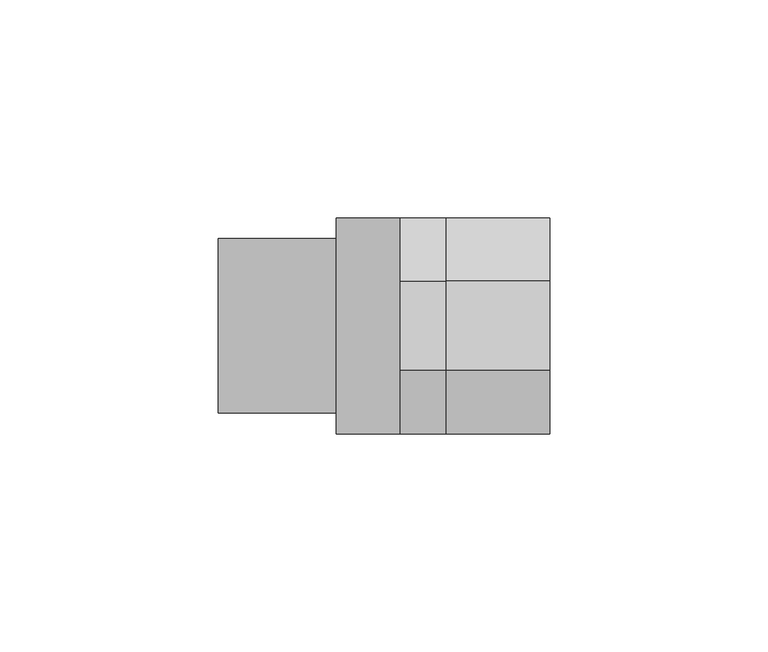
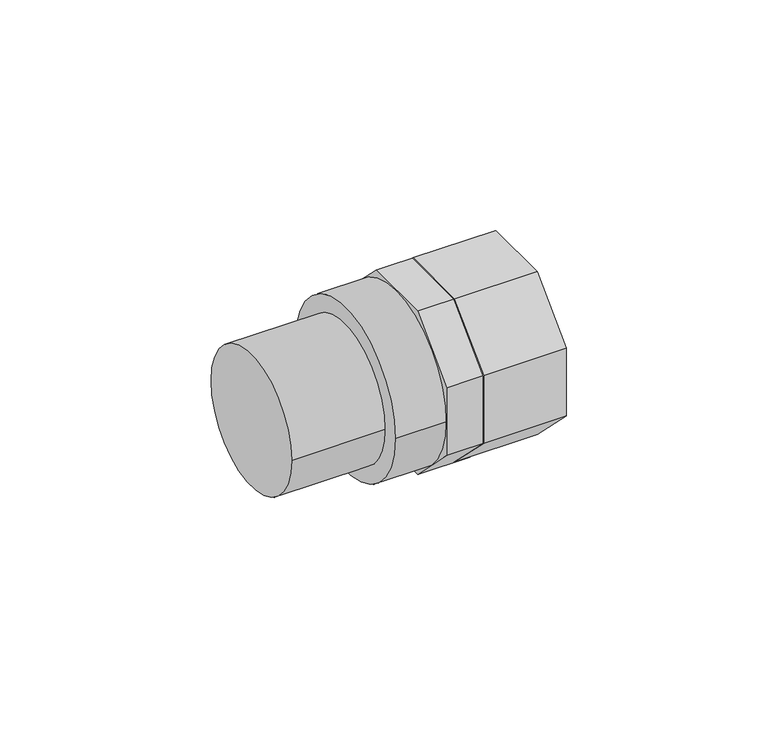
"""IFC4 building model written with IfcOpenShell, lengths in millimetres: pipe fitting geometry, PipeFitting_GirpiHTA_CPVC_AdaptorNipplesA_ForExpansionJoints : PipeFitting_GirpiHTA_CPVC_AdaptorNipplesA_ForExpansionJoints."""

from ifc_helpers import new_model, si_unit, point, frame, origin, origin_2d, place, context, project, spatial, polyline, circle_curve, trimmed, segment, composite_curve, outline, extrude, source, transform, mapped, element, save


def pipe_fitting_eb40a504(model_context):
    return source(origin(), model_context, "Body", "SweptSolid", [
        extrude(outline(polyline([(-24.75, 10.2517857), (-10.2517857, 24.75), (10.2517857, 24.75), (24.75, 10.2517857), (24.75, -10.2517857), (10.2517857, -24.75), (-10.2517857, -24.75), (-24.75, -10.2517857), (-24.75, 10.2517857)])), frame((14.25, 0.0, 0.0), z_axis=(1.0, 0.0, 0.0), x_axis=(0.0, 1.0, 0.0)), (0.0, 0.0, 1.0), 23.75),
        extrude(outline(composite_curve([segment(trimmed(circle_curve(origin_2d(), 12.7), [point((-12.7, 0.0))], [point((12.7, 0.0))], False, "CARTESIAN"), True, "CONTINUOUS"), segment(trimmed(circle_curve(origin_2d(), 12.7), [point((12.7, 0.0))], [point((-12.7, 0.0))], False, "CARTESIAN"), True, "CONTINUOUS")], self_intersect=False)), frame((18.5, 0.0, 0.0), z_axis=(1.0, 0.0, 0.0), x_axis=(0.0, 1.0, 0.0)), (0.0, 0.0, 1.0), 19.5),
        extrude(outline(polyline([(10.2517857, 24.75), (24.75, 10.2517857), (24.75, -10.2517857), (10.2517857, -24.75), (-10.2517857, -24.75), (-24.75, -10.2517857), (-24.75, 10.2517857), (-10.2517857, 24.75), (10.2517857, 24.75)])), frame((3.75, 0.0, 0.0), z_axis=(1.0, 0.0, 0.0), x_axis=(0.0, 1.0, 0.0)), (0.0, 0.0, 1.0), 14.75),
        extrude(outline(composite_curve([segment(trimmed(circle_curve(origin_2d(), 24.75), [point((-24.75, 0.0))], [point((24.75, 0.0))], False, "CARTESIAN"), True, "CONTINUOUS"), segment(trimmed(circle_curve(origin_2d(), 24.75), [point((24.75, 0.0))], [point((-24.75, 0.0))], False, "CARTESIAN"), True, "CONTINUOUS")], self_intersect=False)), frame((-11.0, 0.0, 0.0), z_axis=(1.0, 0.0, 0.0), x_axis=(0.0, 1.0, 0.0)), (0.0, 0.0, 1.0), 14.75),
        extrude(outline(composite_curve([segment(trimmed(circle_curve(origin_2d(), 20.0), [point((-20.0, 0.0))], [point((20.0, 0.0))], False, "CARTESIAN"), True, "CONTINUOUS"), segment(trimmed(circle_curve(origin_2d(), 20.0), [point((20.0, 0.0))], [point((-20.0, 0.0))], False, "CARTESIAN"), True, "CONTINUOUS")], self_intersect=False)), frame((-38.0, 0.0, 0.0), z_axis=(1.0, 0.0, 0.0), x_axis=(0.0, 1.0, 0.0)), (0.0, 0.0, 1.0), 27.0),
    ])


if __name__ == "__main__":
    model = new_model("IFC4")
    model_context = context("Model", 3, world=origin())
    ifc_project = project(units=[si_unit("LENGTHUNIT", "METRE", prefix="MILLI")], contexts=[model_context])
    site = spatial("IfcSite", under=ifc_project)
    building = spatial("IfcBuilding", under=site)
    placement = place(None, origin())
    pipe_fitting_shape = pipe_fitting_eb40a504(model_context)
    element("IfcPipeFitting", 1, ObjectType="PipeFitting_GirpiHTA_CPVC_AdaptorNipplesA_ForExpansionJoints : PipeFitting_GirpiHTA_CPVC_AdaptorNipplesA_ForExpansionJoints", at=placement, inside=building, context=model_context, shape_type="MappedRepresentation", body=[
        mapped(pipe_fitting_shape, transform((0.0, 0.0, 0.0), x_axis=(1.0, 0.0, 0.0), y_axis=(0.0, 1.0, 0.0), z_axis=(0.0, 0.0, 1.0))),
    ])
    save(model, "model.ifc")
